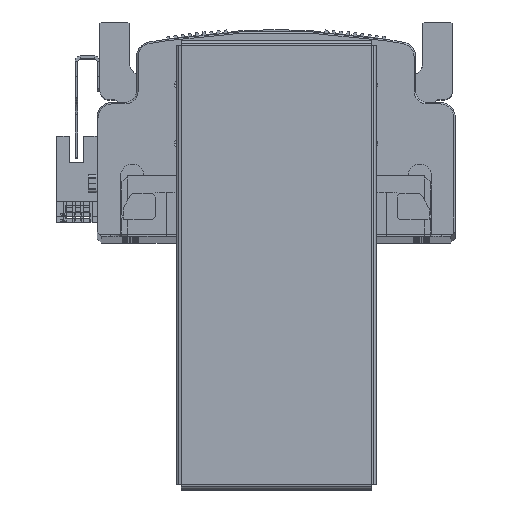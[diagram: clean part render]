
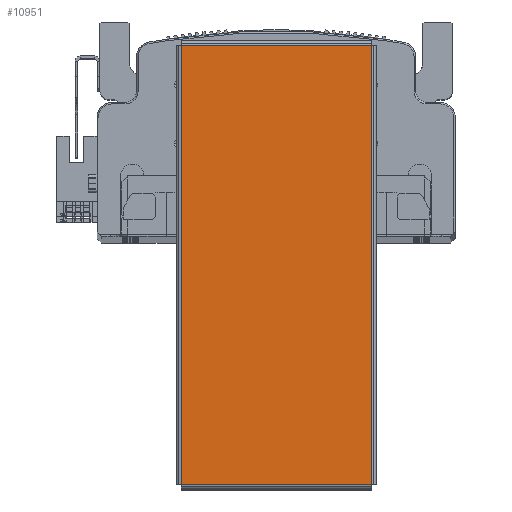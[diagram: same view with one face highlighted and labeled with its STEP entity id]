
A CAD part, top view. The second image highlights one B-rep face of the part: STEP entity #10951.
In plain terms, the highlighted planar face has unit normal (0, 0, 1) as drawn and (0, 0, -1) by its records, which use the part's own axes.
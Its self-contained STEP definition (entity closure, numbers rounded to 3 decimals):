
#19 = VECTOR ( 'NONE', #88562, 1000. ) ;
#455 = VECTOR ( 'NONE', #88629, 1000. ) ;
#536 = LINE ( 'NONE', #88606, #455 ) ;
#1948 = VECTOR ( 'NONE', #88107, 1000. ) ;
#2098 = LINE ( 'NONE', #88153, #1948 ) ;
#2317 = VECTOR ( 'NONE', #88531, 1000. ) ;
#2365 = LINE ( 'NONE', #88470, #2317 ) ;
#3721 = EDGE_CURVE ( 'NONE', #105463, #105324, #2098, .T. ) ;
#3779 = EDGE_CURVE ( 'NONE', #105494, #105445, #2365, .T. ) ;
#3795 = EDGE_CURVE ( 'NONE', #105324, #105494, #536, .T. ) ;
#3804 = EDGE_CURVE ( 'NONE', #105445, #105463, #60799, .T. ) ;
#10951 = ADVANCED_FACE ( 'NONE', ( #96135 ), #70613, .F. ) ;
#30737 = CARTESIAN_POINT ( 'NONE',  ( 74.763, 32.363, -1. ) ) ;
#30776 = CARTESIAN_POINT ( 'NONE',  ( -74.763, 32.363, -1. ) ) ;
#30781 = CARTESIAN_POINT ( 'NONE',  ( 74.763, -32.363, -1. ) ) ;
#30794 = CARTESIAN_POINT ( 'NONE',  ( -74.763, -32.363, -1. ) ) ;
#51061 = AXIS2_PLACEMENT_3D ( 'NONE', #70647, #70662, #70616 ) ;
#60799 = LINE ( 'NONE', #88549, #19 ) ;
#70086 = ORIENTED_EDGE ( 'NONE', *, *, #3804, .T. ) ;
#70163 = ORIENTED_EDGE ( 'NONE', *, *, #3721, .T. ) ;
#70613 = PLANE ( 'NONE',  #51061 ) ;
#70616 = DIRECTION ( 'NONE',  ( 1., 0., 0. ) ) ;
#70647 = CARTESIAN_POINT ( 'NONE',  ( 0., 0., -1. ) ) ;
#70662 = DIRECTION ( 'NONE',  ( 0., 0., 1. ) ) ;
#70931 = EDGE_LOOP ( 'NONE', ( #71261, #71265, #70086, #70163 ) ) ;
#71261 = ORIENTED_EDGE ( 'NONE', *, *, #3795, .T. ) ;
#71265 = ORIENTED_EDGE ( 'NONE', *, *, #3779, .T. ) ;
#88107 = DIRECTION ( 'NONE',  ( 1., 0., 0. ) ) ;
#88153 = CARTESIAN_POINT ( 'NONE',  ( -74.793, 32.363, -1. ) ) ;
#88470 = CARTESIAN_POINT ( 'NONE',  ( 74.793, -32.363, -1. ) ) ;
#88531 = DIRECTION ( 'NONE',  ( -1., 0., 0. ) ) ;
#88549 = CARTESIAN_POINT ( 'NONE',  ( -74.763, -32.393, -1. ) ) ;
#88562 = DIRECTION ( 'NONE',  ( 0., 1., 0. ) ) ;
#88606 = CARTESIAN_POINT ( 'NONE',  ( 74.763, 32.393, -1. ) ) ;
#88629 = DIRECTION ( 'NONE',  ( 0., -1., 0. ) ) ;
#96135 = FACE_OUTER_BOUND ( 'NONE', #70931, .T. ) ;
#105324 = VERTEX_POINT ( 'NONE', #30737 ) ;
#105445 = VERTEX_POINT ( 'NONE', #30794 ) ;
#105463 = VERTEX_POINT ( 'NONE', #30776 ) ;
#105494 = VERTEX_POINT ( 'NONE', #30781 ) ;
